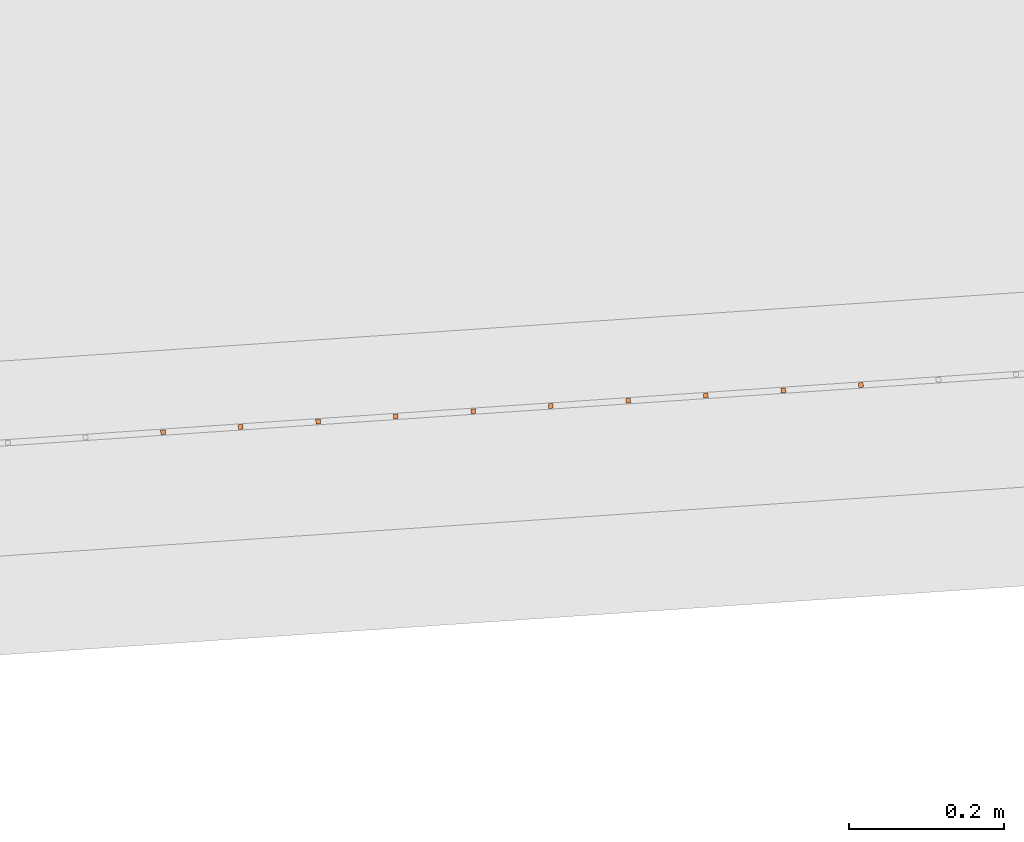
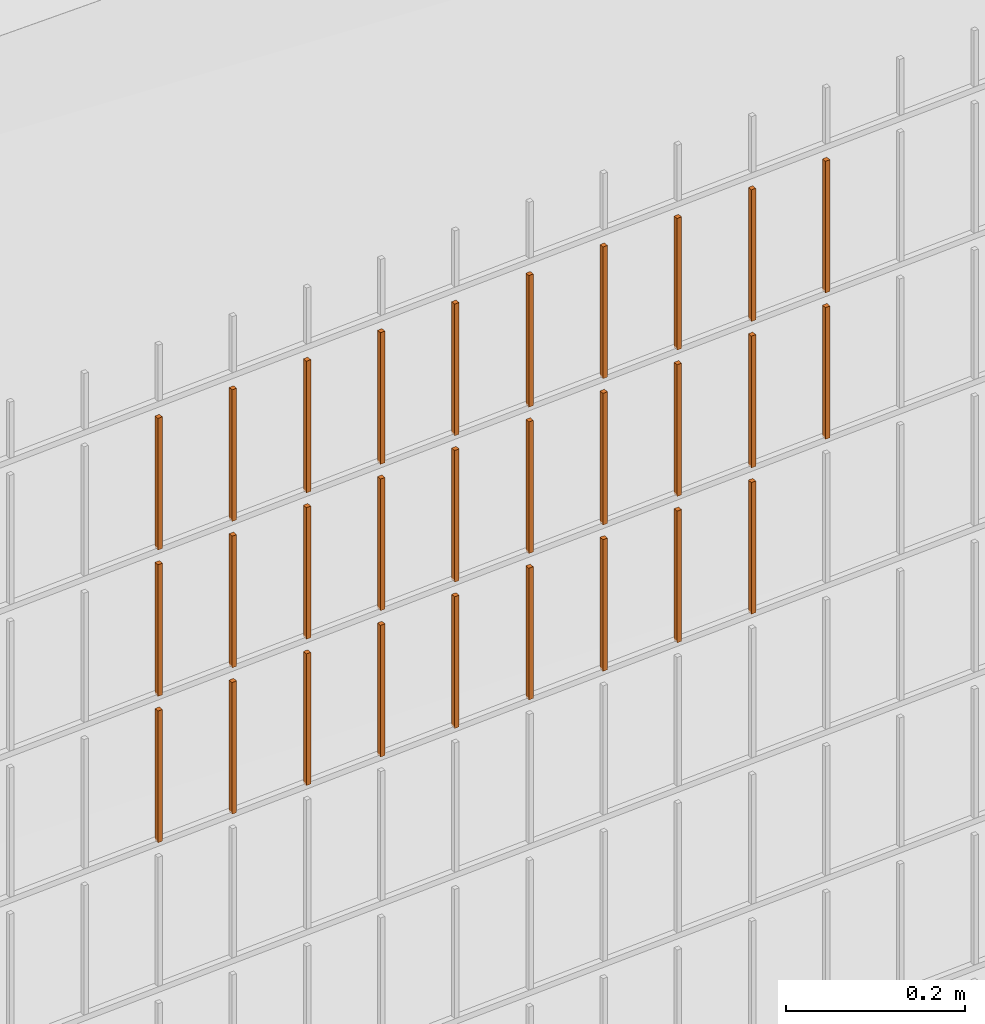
# One storey, part 342 of 1809: 29 proxies, 1 element without a shape of its own.
"""IFC2X3 building model written with IfcOpenShell, lengths in millimetres."""

from ifc_helpers import new_model, entity, si_unit, converted_unit, derived_unit, money_unit, direction, frame, origin_with_axes, place, context, subcontext, project, spatial, faceted_brep, source, transform, mapped, material, type_object, element, aggregate, save


model = new_model("IFC2X3")

# Units and contexts
model_context = context("Model", 3, precision=0.01, world=origin_with_axes(), true_north=direction((0.0, 1.0)))
body_context = subcontext(model_context, "Body", "Model", "MODEL_VIEW")
ifc_project = project(units=[si_unit("LENGTHUNIT", "METRE", prefix="MILLI"), si_unit("AREAUNIT", "SQUARE_METRE"), si_unit("VOLUMEUNIT", "CUBIC_METRE"), converted_unit("PLANEANGLEUNIT", "DEGREE", entity("IfcPlaneAngleMeasure", 0.0174532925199), si_unit("PLANEANGLEUNIT", "RADIAN"), dimensions=[0, 0, 0, 0, 0, 0, 0]), si_unit("SOLIDANGLEUNIT", "STERADIAN"), money_unit("EUR"), converted_unit("TIMEUNIT", "Year", entity("IfcTimeMeasure", 31556926.0), si_unit("TIMEUNIT", "SECOND"), dimensions=[0, 0, 1, 0, 0, 0, 0]), si_unit("MASSUNIT", "GRAM", prefix="KILO"), si_unit("THERMODYNAMICTEMPERATUREUNIT", "DEGREE_CELSIUS"), si_unit("LUMINOUSINTENSITYUNIT", "LUMEN"), si_unit("ENERGYUNIT", "JOULE", prefix="MEGA"), derived_unit("THERMALCONDUCTANCEUNIT", [(si_unit("POWERUNIT", "WATT"), 1), (si_unit("LENGTHUNIT", "METRE"), -1), (si_unit("THERMODYNAMICTEMPERATUREUNIT", "KELVIN"), -1)]), derived_unit("SPECIFICHEATCAPACITYUNIT", [(si_unit("ENERGYUNIT", "JOULE"), 1), (si_unit("MASSUNIT", "GRAM", prefix="KILO"), -1), (si_unit("THERMODYNAMICTEMPERATUREUNIT", "KELVIN"), -1)]), derived_unit("MASSDENSITYUNIT", [(si_unit("MASSUNIT", "GRAM", prefix="KILO"), 1), (si_unit("VOLUMEUNIT", "CUBIC_METRE"), -1)])], contexts=[model_context])

# Site, building, storey
site_placement = place(None, origin_with_axes())
site = spatial("IfcSite", under=ifc_project, at=site_placement, Name="Politse- ja Piirivalveameti ning Päästeameti ühishoone", CompositionType="ELEMENT")
building_placement = place(site_placement, origin_with_axes())
building = spatial("IfcBuilding", under=site, at=building_placement, Name="Politse- ja Piirivalveameti ning Päästeameti ühishoone", CompositionType="ELEMENT")
storey_placement = place(building_placement, origin_with_axes())
storey = spatial("IfcBuildingStorey", under=building, at=storey_placement, Name="Esimene korrus", CompositionType="ELEMENT", Elevation=0.0)

# Proxies
building_element_proxy_type_1 = type_object("IfcBuildingElementProxyType", Name="Railing Type", PredefinedType="NOTDEFINED")
proxy_1_placement = place(storey_placement, frame((89252.001212, -29183.4766571, 203.661247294), z_axis=(0.0, 0.0, 1.0), x_axis=(1.0, 0.0, 0.0)))
proxy_1 = element("IfcBuildingElementProxy", 1, at=proxy_1_placement, inside=storey, type_object=building_element_proxy_type_1, Name="PIIRDEAED")
ifc_material = material(Name="ET-03_Raud")
building_element_proxy_type_2 = type_object("IfcBuildingElementProxyType", Name="IfcBuildingElementProxy", PredefinedType="NOTDEFINED")
shared_shape_1 = source(origin_with_axes(), body_context, "Body", "Brep", [
    faceted_brep([(3.0, 3.0, -0.000752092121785), (-3.0, 3.0, -0.000752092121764), (-3.0, 3.0, 179.99926046), (3.0, 3.0, 179.99926046), (3.0, -3.0, 0.000752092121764), (-3.0, -3.0, 0.000752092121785), (-3.0, -3.0, 180.000764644), (3.0, -3.0, 180.000764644)], [[[0, 1, 2, 3]], [[0, 4, 5, 1]], [[1, 5, 6, 2]], [[3, 2, 6, 7]], [[4, 0, 3, 7]], [[5, 4, 7, 6]]]),
])
proxy_2_placement = place(proxy_1_placement, frame((-30257.7411612, -19341.5709885, 1819.63156448), z_axis=(0.0, 0.0, 1.0), x_axis=(1.0, 0.0, 0.0)))
proxy_2 = element("IfcBuildingElementProxy", 2, at=proxy_2_placement, type_object=building_element_proxy_type_2, material=ifc_material, Name="BALUSTER - 001", context=body_context, shape_type="MappedRepresentation", body=[
    mapped(shared_shape_1, transform((0.0, 0.0, 0.0), x_axis=(-0.0673926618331, 0.997726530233, 0.0), y_axis=(-0.997726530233, -0.0673926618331, 0.0), z_axis=(0.0, 0.0, 1.0))),
])
shared_shape_2 = source(origin_with_axes(), body_context, "Body", "Brep", [
    faceted_brep([(3.0, 3.0, -0.000752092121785), (-3.0, 3.0, -0.000752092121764), (-3.0, 3.0, 179.99926046), (3.0, 3.0, 179.99926046), (3.0, -3.0, 0.000752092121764), (-3.0, -3.0, 0.000752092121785), (-3.0, -3.0, 180.000764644), (3.0, -3.0, 180.000764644)], [[[0, 1, 2, 3]], [[0, 4, 5, 1]], [[1, 5, 6, 2]], [[3, 2, 6, 7]], [[4, 0, 3, 7]], [[5, 4, 7, 6]]]),
])
proxy_3_placement = place(proxy_1_placement, frame((-30257.7411612, -19341.5709885, 1619.63156448), z_axis=(0.0, 0.0, 1.0), x_axis=(1.0, 0.0, 0.0)))
proxy_3 = element("IfcBuildingElementProxy", 3, at=proxy_3_placement, type_object=building_element_proxy_type_2, material=ifc_material, Name="BALUSTER - 001", context=body_context, shape_type="MappedRepresentation", body=[
    mapped(shared_shape_2, transform((0.0, 0.0, 0.0), x_axis=(-0.0673926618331, 0.997726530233, 0.0), y_axis=(-0.997726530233, -0.0673926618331, 0.0), z_axis=(0.0, 0.0, 1.0))),
])
shared_shape_3 = source(origin_with_axes(), body_context, "Body", "Brep", [
    faceted_brep([(3.0, 3.0, -0.000752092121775), (-3.0, 3.0, -0.000752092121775), (-3.0, 3.0, 179.99926046), (3.0, 3.0, 179.99926046), (3.0, -3.0, 0.000752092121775), (-3.0, -3.0, 0.000752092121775), (-3.0, -3.0, 180.000764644), (3.0, -3.0, 180.000764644)], [[[0, 1, 2, 3]], [[0, 4, 5, 1]], [[1, 5, 6, 2]], [[3, 2, 6, 7]], [[4, 0, 3, 7]], [[5, 4, 7, 6]]]),
])
proxy_4_placement = place(proxy_1_placement, frame((-31055.9223854, -19395.4851179, 1419.43100658), z_axis=(0.0, 0.0, 1.0), x_axis=(1.0, 0.0, 0.0)))
proxy_4 = element("IfcBuildingElementProxy", 4, at=proxy_4_placement, type_object=building_element_proxy_type_2, material=ifc_material, Name="BALUSTER - 001", context=body_context, shape_type="MappedRepresentation", body=[
    mapped(shared_shape_3, transform((0.0, 0.0, 0.0), x_axis=(-0.0673926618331, 0.997726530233, 0.0), y_axis=(-0.997726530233, -0.0673926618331, 0.0), z_axis=(0.0, 0.0, 1.0))),
])
shared_shape_4 = source(origin_with_axes(), body_context, "Body", "Brep", [
    faceted_brep([(3.0, 3.0, -0.000752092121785), (-3.0, 3.0, -0.000752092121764), (-3.0, 3.0, 179.99926046), (3.0, 3.0, 179.99926046), (3.0, -3.0, 0.000752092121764), (-3.0, -3.0, 0.000752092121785), (-3.0, -3.0, 180.000764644), (3.0, -3.0, 180.000764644)], [[[0, 1, 2, 3]], [[0, 4, 5, 1]], [[1, 5, 6, 2]], [[3, 2, 6, 7]], [[4, 0, 3, 7]], [[5, 4, 7, 6]]]),
])
proxy_5_placement = place(proxy_1_placement, frame((-30956.1497324, -19388.7458517, 1619.45607631), z_axis=(0.0, 0.0, 1.0), x_axis=(1.0, 0.0, 0.0)))
proxy_5 = element("IfcBuildingElementProxy", 5, at=proxy_5_placement, type_object=building_element_proxy_type_2, material=ifc_material, Name="BALUSTER - 001", context=body_context, shape_type="MappedRepresentation", body=[
    mapped(shared_shape_4, transform((0.0, 0.0, 0.0), x_axis=(-0.0673926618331, 0.997726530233, 0.0), y_axis=(-0.997726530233, -0.0673926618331, 0.0), z_axis=(0.0, 0.0, 1.0))),
])
shared_shape_5 = source(origin_with_axes(), body_context, "Body", "Brep", [
    faceted_brep([(3.0, 3.0, -0.000752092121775), (-3.0, 3.0, -0.000752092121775), (-3.0, 3.0, 179.99926046), (3.0, 3.0, 179.99926046), (3.0, -3.0, 0.000752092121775), (-3.0, -3.0, 0.000752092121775), (-3.0, -3.0, 180.000764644), (3.0, -3.0, 180.000764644)], [[[0, 1, 2, 3]], [[0, 4, 5, 1]], [[1, 5, 6, 2]], [[3, 2, 6, 7]], [[4, 0, 3, 7]], [[5, 4, 7, 6]]]),
])
proxy_6_placement = place(proxy_1_placement, frame((-31055.9223854, -19395.4851179, 1819.43100658), z_axis=(0.0, 0.0, 1.0), x_axis=(1.0, 0.0, 0.0)))
proxy_6 = element("IfcBuildingElementProxy", 6, at=proxy_6_placement, type_object=building_element_proxy_type_2, material=ifc_material, Name="BALUSTER - 001", context=body_context, shape_type="MappedRepresentation", body=[
    mapped(shared_shape_5, transform((0.0, 0.0, 0.0), x_axis=(-0.0673926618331, 0.997726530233, 0.0), y_axis=(-0.997726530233, -0.0673926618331, 0.0), z_axis=(0.0, 0.0, 1.0))),
])
shared_shape_6 = source(origin_with_axes(), body_context, "Body", "Brep", [
    faceted_brep([(3.0, 3.0, -0.000752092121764), (-3.0, 3.0, -0.000752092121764), (-3.0, 3.0, 179.99926046), (3.0, 3.0, 179.99926046), (3.0, -3.0, 0.000752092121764), (-3.0, -3.0, 0.000752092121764), (-3.0, -3.0, 180.000764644), (3.0, -3.0, 180.000764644)], [[[0, 1, 2, 3]], [[0, 4, 5, 1]], [[1, 5, 6, 2]], [[3, 2, 6, 7]], [[4, 0, 3, 7]], [[5, 4, 7, 6]]]),
])
proxy_7_placement = place(proxy_1_placement, frame((-30856.3770794, -19382.0065856, 1419.48114605), z_axis=(0.0, 0.0, 1.0), x_axis=(1.0, 0.0, 0.0)))
proxy_7 = element("IfcBuildingElementProxy", 7, at=proxy_7_placement, type_object=building_element_proxy_type_2, material=ifc_material, Name="BALUSTER - 001", context=body_context, shape_type="MappedRepresentation", body=[
    mapped(shared_shape_6, transform((0.0, 0.0, 0.0), x_axis=(-0.0673926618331, 0.997726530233, 0.0), y_axis=(-0.997726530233, -0.0673926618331, 0.0), z_axis=(0.0, 0.0, 1.0))),
])
proxy_8_placement = place(proxy_1_placement, frame((-30856.3770794, -19382.0065856, 1619.48114605), z_axis=(0.0, 0.0, 1.0), x_axis=(1.0, 0.0, 0.0)))
proxy_8 = element("IfcBuildingElementProxy", 8, at=proxy_8_placement, type_object=building_element_proxy_type_2, material=ifc_material, Name="BALUSTER - 001", context=body_context, shape_type="MappedRepresentation", body=[
    mapped(shared_shape_6, transform((0.0, 0.0, 0.0), x_axis=(-0.0673926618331, 0.997726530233, 0.0), y_axis=(-0.997726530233, -0.0673926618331, 0.0), z_axis=(0.0, 0.0, 1.0))),
])
shared_shape_7 = source(origin_with_axes(), body_context, "Body", "Brep", [
    faceted_brep([(3.0, 3.0, -0.000752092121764), (-3.0, 3.0, -0.000752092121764), (-3.0, 3.0, 179.99926046), (3.0, 3.0, 179.99926046), (3.0, -3.0, 0.000752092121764), (-3.0, -3.0, 0.000752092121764), (-3.0, -3.0, 180.000764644), (3.0, -3.0, 180.000764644)], [[[0, 1, 2, 3]], [[0, 4, 5, 1]], [[1, 5, 6, 2]], [[3, 2, 6, 7]], [[4, 0, 3, 7]], [[5, 4, 7, 6]]]),
])
proxy_9_placement = place(proxy_1_placement, frame((-30856.3770794, -19382.0065856, 1819.48114605), z_axis=(0.0, 0.0, 1.0), x_axis=(1.0, 0.0, 0.0)))
proxy_9 = element("IfcBuildingElementProxy", 9, at=proxy_9_placement, type_object=building_element_proxy_type_2, material=ifc_material, Name="BALUSTER - 001", context=body_context, shape_type="MappedRepresentation", body=[
    mapped(shared_shape_7, transform((0.0, 0.0, 0.0), x_axis=(-0.0673926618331, 0.997726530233, 0.0), y_axis=(-0.997726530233, -0.0673926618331, 0.0), z_axis=(0.0, 0.0, 1.0))),
])
shared_shape_8 = source(origin_with_axes(), body_context, "Body", "Brep", [
    faceted_brep([(3.0, 3.0, -0.000752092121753), (-3.0, 3.0, -0.000752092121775), (-3.0, 3.0, 179.99926046), (3.0, 3.0, 179.99926046), (3.0, -3.0, 0.000752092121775), (-3.0, -3.0, 0.000752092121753), (-3.0, -3.0, 180.000764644), (3.0, -3.0, 180.000764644)], [[[0, 1, 2, 3]], [[0, 4, 5, 1]], [[1, 5, 6, 2]], [[3, 2, 6, 7]], [[4, 0, 3, 7]], [[5, 4, 7, 6]]]),
])
proxy_10_placement = place(proxy_1_placement, frame((-30656.8317733, -19368.5280532, 1419.53128553), z_axis=(0.0, 0.0, 1.0), x_axis=(1.0, 0.0, 0.0)))
proxy_10 = element("IfcBuildingElementProxy", 10, at=proxy_10_placement, type_object=building_element_proxy_type_2, material=ifc_material, Name="BALUSTER - 001", context=body_context, shape_type="MappedRepresentation", body=[
    mapped(shared_shape_8, transform((0.0, 0.0, 0.0), x_axis=(-0.0673926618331, 0.997726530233, 0.0), y_axis=(-0.997726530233, -0.0673926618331, 0.0), z_axis=(0.0, 0.0, 1.0))),
])
proxy_11_placement = place(proxy_1_placement, frame((-30756.6044264, -19375.2673194, 1419.50621579), z_axis=(0.0, 0.0, 1.0), x_axis=(1.0, 0.0, 0.0)))
proxy_11 = element("IfcBuildingElementProxy", 11, at=proxy_11_placement, type_object=building_element_proxy_type_2, material=ifc_material, Name="BALUSTER - 001", context=body_context, shape_type="MappedRepresentation", body=[
    mapped(shared_shape_8, transform((0.0, 0.0, 0.0), x_axis=(-0.0673926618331, 0.997726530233, 0.0), y_axis=(-0.997726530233, -0.0673926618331, 0.0), z_axis=(0.0, 0.0, 1.0))),
])
shared_shape_9 = source(origin_with_axes(), body_context, "Body", "Brep", [
    faceted_brep([(3.0, 3.0, -0.000752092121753), (-3.0, 3.0, -0.000752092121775), (-3.0, 3.0, 179.99926046), (3.0, 3.0, 179.99926046), (3.0, -3.0, 0.000752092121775), (-3.0, -3.0, 0.000752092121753), (-3.0, -3.0, 180.000764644), (3.0, -3.0, 180.000764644)], [[[0, 1, 2, 3]], [[0, 4, 5, 1]], [[1, 5, 6, 2]], [[3, 2, 6, 7]], [[4, 0, 3, 7]], [[5, 4, 7, 6]]]),
])
proxy_12_placement = place(proxy_1_placement, frame((-30656.8317733, -19368.5280532, 1819.53128553), z_axis=(0.0, 0.0, 1.0), x_axis=(1.0, 0.0, 0.0)))
proxy_12 = element("IfcBuildingElementProxy", 12, at=proxy_12_placement, type_object=building_element_proxy_type_2, material=ifc_material, Name="BALUSTER - 001", context=body_context, shape_type="MappedRepresentation", body=[
    mapped(shared_shape_9, transform((0.0, 0.0, 0.0), x_axis=(-0.0673926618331, 0.997726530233, 0.0), y_axis=(-0.997726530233, -0.0673926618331, 0.0), z_axis=(0.0, 0.0, 1.0))),
])
proxy_13_placement = place(proxy_1_placement, frame((-30756.6044264, -19375.2673194, 1819.50621579), z_axis=(0.0, 0.0, 1.0), x_axis=(1.0, 0.0, 0.0)))
proxy_13 = element("IfcBuildingElementProxy", 13, at=proxy_13_placement, type_object=building_element_proxy_type_2, material=ifc_material, Name="BALUSTER - 001", context=body_context, shape_type="MappedRepresentation", body=[
    mapped(shared_shape_9, transform((0.0, 0.0, 0.0), x_axis=(-0.0673926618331, 0.997726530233, 0.0), y_axis=(-0.997726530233, -0.0673926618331, 0.0), z_axis=(0.0, 0.0, 1.0))),
])
shared_shape_10 = source(origin_with_axes(), body_context, "Body", "Brep", [
    faceted_brep([(3.0, 3.0, -0.000752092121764), (-3.0, 3.0, -0.000752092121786), (-3.0, 3.0, 179.99926046), (3.0, 3.0, 179.99926046), (3.0, -3.0, 0.000752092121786), (-3.0, -3.0, 0.000752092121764), (-3.0, -3.0, 180.000764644), (3.0, -3.0, 180.000764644)], [[[0, 1, 2, 3]], [[0, 4, 5, 1]], [[1, 5, 6, 2]], [[3, 2, 6, 7]], [[4, 0, 3, 7]], [[5, 4, 7, 6]]]),
])
proxy_14_placement = place(proxy_1_placement, frame((-31155.6950385, -19402.2243841, 1819.40593684), z_axis=(0.0, 0.0, 1.0), x_axis=(1.0, 0.0, 0.0)))
proxy_14 = element("IfcBuildingElementProxy", 14, at=proxy_14_placement, type_object=building_element_proxy_type_2, material=ifc_material, Name="BALUSTER - 001", context=body_context, shape_type="MappedRepresentation", body=[
    mapped(shared_shape_10, transform((0.0, 0.0, 0.0), x_axis=(-0.0673926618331, 0.997726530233, 0.0), y_axis=(-0.997726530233, -0.0673926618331, 0.0), z_axis=(0.0, 0.0, 1.0))),
])
shared_shape_11 = source(origin_with_axes(), body_context, "Body", "Brep", [
    faceted_brep([(3.0, 3.0, -0.000752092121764), (-3.0, 3.0, -0.000752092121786), (-3.0, 3.0, 179.99926046), (3.0, 3.0, 179.99926046), (3.0, -3.0, 0.000752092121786), (-3.0, -3.0, 0.000752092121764), (-3.0, -3.0, 180.000764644), (3.0, -3.0, 180.000764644)], [[[0, 1, 2, 3]], [[0, 4, 5, 1]], [[1, 5, 6, 2]], [[3, 2, 6, 7]], [[4, 0, 3, 7]], [[5, 4, 7, 6]]]),
])
proxy_15_placement = place(proxy_1_placement, frame((-31155.6950385, -19402.2243841, 1419.40593684), z_axis=(0.0, 0.0, 1.0), x_axis=(1.0, 0.0, 0.0)))
proxy_15 = element("IfcBuildingElementProxy", 15, at=proxy_15_placement, type_object=building_element_proxy_type_2, material=ifc_material, Name="BALUSTER - 001", context=body_context, shape_type="MappedRepresentation", body=[
    mapped(shared_shape_11, transform((0.0, 0.0, 0.0), x_axis=(-0.0673926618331, 0.997726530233, 0.0), y_axis=(-0.997726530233, -0.0673926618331, 0.0), z_axis=(0.0, 0.0, 1.0))),
])
proxy_16_placement = place(proxy_1_placement, frame((-31155.6950385, -19402.2243841, 1619.40593684), z_axis=(0.0, 0.0, 1.0), x_axis=(1.0, 0.0, 0.0)))
proxy_16 = element("IfcBuildingElementProxy", 16, at=proxy_16_placement, type_object=building_element_proxy_type_2, material=ifc_material, Name="BALUSTER - 001", context=body_context, shape_type="MappedRepresentation", body=[
    mapped(shared_shape_11, transform((0.0, 0.0, 0.0), x_axis=(-0.0673926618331, 0.997726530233, 0.0), y_axis=(-0.997726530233, -0.0673926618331, 0.0), z_axis=(0.0, 0.0, 1.0))),
])
shared_shape_12 = source(origin_with_axes(), body_context, "Body", "Brep", [
    faceted_brep([(3.0, 3.0, -0.000752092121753), (-3.0, 3.0, -0.000752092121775), (-3.0, 3.0, 179.99926046), (3.0, 3.0, 179.99926046), (3.0, -3.0, 0.000752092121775), (-3.0, -3.0, 0.000752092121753), (-3.0, -3.0, 180.000764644), (3.0, -3.0, 180.000764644)], [[[0, 1, 2, 3]], [[0, 4, 5, 1]], [[1, 5, 6, 2]], [[3, 2, 6, 7]], [[4, 0, 3, 7]], [[5, 4, 7, 6]]]),
])
proxy_17_placement = place(proxy_1_placement, frame((-30756.6044264, -19375.2673194, 1619.50621579), z_axis=(0.0, 0.0, 1.0), x_axis=(1.0, 0.0, 0.0)))
proxy_17 = element("IfcBuildingElementProxy", 17, at=proxy_17_placement, type_object=building_element_proxy_type_2, material=ifc_material, Name="BALUSTER - 001", context=body_context, shape_type="MappedRepresentation", body=[
    mapped(shared_shape_12, transform((0.0, 0.0, 0.0), x_axis=(-0.0673926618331, 0.997726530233, 0.0), y_axis=(-0.997726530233, -0.0673926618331, 0.0), z_axis=(0.0, 0.0, 1.0))),
])
shared_shape_13 = source(origin_with_axes(), body_context, "Body", "Brep", [
    faceted_brep([(3.0, 3.0, -0.000752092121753), (-3.0, 3.0, -0.000752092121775), (-3.0, 3.0, 179.99926046), (3.0, 3.0, 179.99926046), (3.0, -3.0, 0.000752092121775), (-3.0, -3.0, 0.000752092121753), (-3.0, -3.0, 180.000764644), (3.0, -3.0, 180.000764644)], [[[0, 1, 2, 3]], [[0, 4, 5, 1]], [[1, 5, 6, 2]], [[3, 2, 6, 7]], [[4, 0, 3, 7]], [[5, 4, 7, 6]]]),
])
proxy_18_placement = place(proxy_1_placement, frame((-30656.8317733, -19368.5280532, 1619.53128553), z_axis=(0.0, 0.0, 1.0), x_axis=(1.0, 0.0, 0.0)))
proxy_18 = element("IfcBuildingElementProxy", 18, at=proxy_18_placement, type_object=building_element_proxy_type_2, material=ifc_material, Name="BALUSTER - 001", context=body_context, shape_type="MappedRepresentation", body=[
    mapped(shared_shape_13, transform((0.0, 0.0, 0.0), x_axis=(-0.0673926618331, 0.997726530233, 0.0), y_axis=(-0.997726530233, -0.0673926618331, 0.0), z_axis=(0.0, 0.0, 1.0))),
])
proxy_19_placement = place(proxy_1_placement, frame((-30557.0591203, -19361.788787, 1819.55635526), z_axis=(0.0, 0.0, 1.0), x_axis=(1.0, 0.0, 0.0)))
proxy_19 = element("IfcBuildingElementProxy", 19, at=proxy_19_placement, type_object=building_element_proxy_type_2, material=ifc_material, Name="BALUSTER - 001", context=body_context, shape_type="MappedRepresentation", body=[
    mapped(shared_shape_13, transform((0.0, 0.0, 0.0), x_axis=(-0.0673926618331, 0.997726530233, 0.0), y_axis=(-0.997726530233, -0.0673926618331, 0.0), z_axis=(0.0, 0.0, 1.0))),
])
shared_shape_14 = source(origin_with_axes(), body_context, "Body", "Brep", [
    faceted_brep([(3.0, 3.0, -0.000752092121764), (-3.0, 3.0, -0.000752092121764), (-3.0, 3.0, 179.99926046), (3.0, 3.0, 179.99926046), (3.0, -3.0, 0.000752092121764), (-3.0, -3.0, 0.000752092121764), (-3.0, -3.0, 180.000764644), (3.0, -3.0, 180.000764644)], [[[0, 1, 2, 3]], [[0, 4, 5, 1]], [[1, 5, 6, 2]], [[3, 2, 6, 7]], [[4, 0, 3, 7]], [[5, 4, 7, 6]]]),
])
proxy_20_placement = place(proxy_1_placement, frame((-30357.5138143, -19348.3102546, 1819.60649474), z_axis=(0.0, 0.0, 1.0), x_axis=(1.0, 0.0, 0.0)))
proxy_20 = element("IfcBuildingElementProxy", 20, at=proxy_20_placement, type_object=building_element_proxy_type_2, material=ifc_material, Name="BALUSTER - 001", context=body_context, shape_type="MappedRepresentation", body=[
    mapped(shared_shape_14, transform((0.0, 0.0, 0.0), x_axis=(-0.0673926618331, 0.997726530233, 0.0), y_axis=(-0.997726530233, -0.0673926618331, 0.0), z_axis=(0.0, 0.0, 1.0))),
])
shared_shape_15 = source(origin_with_axes(), body_context, "Body", "Brep", [
    faceted_brep([(3.0, 3.0, -0.000752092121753), (-3.0, 3.0, -0.000752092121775), (-3.0, 3.0, 179.99926046), (3.0, 3.0, 179.99926046), (3.0, -3.0, 0.000752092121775), (-3.0, -3.0, 0.000752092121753), (-3.0, -3.0, 180.000764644), (3.0, -3.0, 180.000764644)], [[[0, 1, 2, 3]], [[0, 4, 5, 1]], [[1, 5, 6, 2]], [[3, 2, 6, 7]], [[4, 0, 3, 7]], [[5, 4, 7, 6]]]),
])
proxy_21_placement = place(proxy_1_placement, frame((-30457.2864673, -19355.0495208, 1819.581425), z_axis=(0.0, 0.0, 1.0), x_axis=(1.0, 0.0, 0.0)))
proxy_21 = element("IfcBuildingElementProxy", 21, at=proxy_21_placement, type_object=building_element_proxy_type_2, material=ifc_material, Name="BALUSTER - 001", context=body_context, shape_type="MappedRepresentation", body=[
    mapped(shared_shape_15, transform((0.0, 0.0, 0.0), x_axis=(-0.0673926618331, 0.997726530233, 0.0), y_axis=(-0.997726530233, -0.0673926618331, 0.0), z_axis=(0.0, 0.0, 1.0))),
])
shared_shape_16 = source(origin_with_axes(), body_context, "Body", "Brep", [
    faceted_brep([(3.0, 3.0, -0.000752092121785), (-3.0, 3.0, -0.000752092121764), (-3.0, 3.0, 179.99926046), (3.0, 3.0, 179.99926046), (3.0, -3.0, 0.000752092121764), (-3.0, -3.0, 0.000752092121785), (-3.0, -3.0, 180.000764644), (3.0, -3.0, 180.000764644)], [[[0, 1, 2, 3]], [[0, 4, 5, 1]], [[1, 5, 6, 2]], [[3, 2, 6, 7]], [[4, 0, 3, 7]], [[5, 4, 7, 6]]]),
])
proxy_22_placement = place(proxy_1_placement, frame((-30956.1497324, -19388.7458517, 1819.45607631), z_axis=(0.0, 0.0, 1.0), x_axis=(1.0, 0.0, 0.0)))
proxy_22 = element("IfcBuildingElementProxy", 22, at=proxy_22_placement, type_object=building_element_proxy_type_2, material=ifc_material, Name="BALUSTER - 001", context=body_context, shape_type="MappedRepresentation", body=[
    mapped(shared_shape_16, transform((0.0, 0.0, 0.0), x_axis=(-0.0673926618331, 0.997726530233, 0.0), y_axis=(-0.997726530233, -0.0673926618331, 0.0), z_axis=(0.0, 0.0, 1.0))),
])
shared_shape_17 = source(origin_with_axes(), body_context, "Body", "Brep", [
    faceted_brep([(3.0, 3.0, -0.000752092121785), (-3.0, 3.0, -0.000752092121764), (-3.0, 3.0, 179.99926046), (3.0, 3.0, 179.99926046), (3.0, -3.0, 0.000752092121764), (-3.0, -3.0, 0.000752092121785), (-3.0, -3.0, 180.000764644), (3.0, -3.0, 180.000764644)], [[[0, 1, 2, 3]], [[0, 4, 5, 1]], [[1, 5, 6, 2]], [[3, 2, 6, 7]], [[4, 0, 3, 7]], [[5, 4, 7, 6]]]),
])
proxy_23_placement = place(proxy_1_placement, frame((-30956.1497324, -19388.7458517, 1419.45607631), z_axis=(0.0, 0.0, 1.0), x_axis=(1.0, 0.0, 0.0)))
proxy_23 = element("IfcBuildingElementProxy", 23, at=proxy_23_placement, type_object=building_element_proxy_type_2, material=ifc_material, Name="BALUSTER - 001", context=body_context, shape_type="MappedRepresentation", body=[
    mapped(shared_shape_17, transform((0.0, 0.0, 0.0), x_axis=(-0.0673926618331, 0.997726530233, 0.0), y_axis=(-0.997726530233, -0.0673926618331, 0.0), z_axis=(0.0, 0.0, 1.0))),
])
shared_shape_18 = source(origin_with_axes(), body_context, "Body", "Brep", [
    faceted_brep([(3.0, 3.0, -0.000752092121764), (-3.0, 3.0, -0.000752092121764), (-3.0, 3.0, 179.99926046), (3.0, 3.0, 179.99926046), (3.0, -3.0, 0.000752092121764), (-3.0, -3.0, 0.000752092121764), (-3.0, -3.0, 180.000764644), (3.0, -3.0, 180.000764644)], [[[0, 1, 2, 3]], [[0, 4, 5, 1]], [[1, 5, 6, 2]], [[3, 2, 6, 7]], [[4, 0, 3, 7]], [[5, 4, 7, 6]]]),
])
proxy_24_placement = place(proxy_1_placement, frame((-30357.5138143, -19348.3102546, 1419.60649474), z_axis=(0.0, 0.0, 1.0), x_axis=(1.0, 0.0, 0.0)))
proxy_24 = element("IfcBuildingElementProxy", 24, at=proxy_24_placement, type_object=building_element_proxy_type_2, material=ifc_material, Name="BALUSTER - 001", context=body_context, shape_type="MappedRepresentation", body=[
    mapped(shared_shape_18, transform((0.0, 0.0, 0.0), x_axis=(-0.0673926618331, 0.997726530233, 0.0), y_axis=(-0.997726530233, -0.0673926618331, 0.0), z_axis=(0.0, 0.0, 1.0))),
])
shared_shape_19 = source(origin_with_axes(), body_context, "Body", "Brep", [
    faceted_brep([(3.0, 3.0, -0.000752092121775), (-3.0, 3.0, -0.000752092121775), (-3.0, 3.0, 179.99926046), (3.0, 3.0, 179.99926046), (3.0, -3.0, 0.000752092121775), (-3.0, -3.0, 0.000752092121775), (-3.0, -3.0, 180.000764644), (3.0, -3.0, 180.000764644)], [[[0, 1, 2, 3]], [[0, 4, 5, 1]], [[1, 5, 6, 2]], [[3, 2, 6, 7]], [[4, 0, 3, 7]], [[5, 4, 7, 6]]]),
])
proxy_25_placement = place(proxy_1_placement, frame((-31055.9223854, -19395.4851179, 1619.43100658), z_axis=(0.0, 0.0, 1.0), x_axis=(1.0, 0.0, 0.0)))
proxy_25 = element("IfcBuildingElementProxy", 25, at=proxy_25_placement, type_object=building_element_proxy_type_2, material=ifc_material, Name="BALUSTER - 001", context=body_context, shape_type="MappedRepresentation", body=[
    mapped(shared_shape_19, transform((0.0, 0.0, 0.0), x_axis=(-0.0673926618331, 0.997726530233, 0.0), y_axis=(-0.997726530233, -0.0673926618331, 0.0), z_axis=(0.0, 0.0, 1.0))),
])
shared_shape_20 = source(origin_with_axes(), body_context, "Body", "Brep", [
    faceted_brep([(3.0, 3.0, -0.000752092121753), (-3.0, 3.0, -0.000752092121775), (-3.0, 3.0, 179.99926046), (3.0, 3.0, 179.99926046), (3.0, -3.0, 0.000752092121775), (-3.0, -3.0, 0.000752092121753), (-3.0, -3.0, 180.000764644), (3.0, -3.0, 180.000764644)], [[[0, 1, 2, 3]], [[0, 4, 5, 1]], [[1, 5, 6, 2]], [[3, 2, 6, 7]], [[4, 0, 3, 7]], [[5, 4, 7, 6]]]),
])
proxy_26_placement = place(proxy_1_placement, frame((-30457.2864673, -19355.0495208, 1419.581425), z_axis=(0.0, 0.0, 1.0), x_axis=(1.0, 0.0, 0.0)))
proxy_26 = element("IfcBuildingElementProxy", 26, at=proxy_26_placement, type_object=building_element_proxy_type_2, material=ifc_material, Name="BALUSTER - 001", context=body_context, shape_type="MappedRepresentation", body=[
    mapped(shared_shape_20, transform((0.0, 0.0, 0.0), x_axis=(-0.0673926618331, 0.997726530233, 0.0), y_axis=(-0.997726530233, -0.0673926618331, 0.0), z_axis=(0.0, 0.0, 1.0))),
])
proxy_27_placement = place(proxy_1_placement, frame((-30457.2864673, -19355.0495208, 1619.581425), z_axis=(0.0, 0.0, 1.0), x_axis=(1.0, 0.0, 0.0)))
proxy_27 = element("IfcBuildingElementProxy", 27, at=proxy_27_placement, type_object=building_element_proxy_type_2, material=ifc_material, Name="BALUSTER - 001", context=body_context, shape_type="MappedRepresentation", body=[
    mapped(shared_shape_20, transform((0.0, 0.0, 0.0), x_axis=(-0.0673926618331, 0.997726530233, 0.0), y_axis=(-0.997726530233, -0.0673926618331, 0.0), z_axis=(0.0, 0.0, 1.0))),
])
shared_shape_21 = source(origin_with_axes(), body_context, "Body", "Brep", [
    faceted_brep([(3.0, 3.0, -0.000752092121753), (-3.0, 3.0, -0.000752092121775), (-3.0, 3.0, 179.99926046), (3.0, 3.0, 179.99926046), (3.0, -3.0, 0.000752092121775), (-3.0, -3.0, 0.000752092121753), (-3.0, -3.0, 180.000764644), (3.0, -3.0, 180.000764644)], [[[0, 1, 2, 3]], [[0, 4, 5, 1]], [[1, 5, 6, 2]], [[3, 2, 6, 7]], [[4, 0, 3, 7]], [[5, 4, 7, 6]]]),
])
proxy_28_placement = place(proxy_1_placement, frame((-30557.0591203, -19361.788787, 1419.55635526), z_axis=(0.0, 0.0, 1.0), x_axis=(1.0, 0.0, 0.0)))
proxy_28 = element("IfcBuildingElementProxy", 28, at=proxy_28_placement, type_object=building_element_proxy_type_2, material=ifc_material, Name="BALUSTER - 001", context=body_context, shape_type="MappedRepresentation", body=[
    mapped(shared_shape_21, transform((0.0, 0.0, 0.0), x_axis=(-0.0673926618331, 0.997726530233, 0.0), y_axis=(-0.997726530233, -0.0673926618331, 0.0), z_axis=(0.0, 0.0, 1.0))),
])
proxy_29_placement = place(proxy_1_placement, frame((-30557.0591203, -19361.788787, 1619.55635526), z_axis=(0.0, 0.0, 1.0), x_axis=(1.0, 0.0, 0.0)))
proxy_29 = element("IfcBuildingElementProxy", 29, at=proxy_29_placement, type_object=building_element_proxy_type_2, material=ifc_material, Name="BALUSTER - 001", context=body_context, shape_type="MappedRepresentation", body=[
    mapped(shared_shape_21, transform((0.0, 0.0, 0.0), x_axis=(-0.0673926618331, 0.997726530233, 0.0), y_axis=(-0.997726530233, -0.0673926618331, 0.0), z_axis=(0.0, 0.0, 1.0))),
])
shared_shape_22 = source(origin_with_axes(), body_context, "Body", "Brep", [
    faceted_brep([(3.0, 3.0, -0.000752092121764), (-3.0, 3.0, -0.000752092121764), (-3.0, 3.0, 179.99926046), (3.0, 3.0, 179.99926046), (3.0, -3.0, 0.000752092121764), (-3.0, -3.0, 0.000752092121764), (-3.0, -3.0, 180.000764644), (3.0, -3.0, 180.000764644)], [[[0, 1, 2, 3]], [[0, 4, 5, 1]], [[1, 5, 6, 2]], [[3, 2, 6, 7]], [[4, 0, 3, 7]], [[5, 4, 7, 6]]]),
])
proxy_30_placement = place(proxy_1_placement, frame((-30357.5138143, -19348.3102546, 1619.60649474), z_axis=(0.0, 0.0, 1.0), x_axis=(1.0, 0.0, 0.0)))
proxy_30 = element("IfcBuildingElementProxy", 30, at=proxy_30_placement, type_object=building_element_proxy_type_2, material=ifc_material, Name="BALUSTER - 001", context=body_context, shape_type="MappedRepresentation", body=[
    mapped(shared_shape_22, transform((0.0, 0.0, 0.0), x_axis=(-0.0673926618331, 0.997726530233, 0.0), y_axis=(-0.997726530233, -0.0673926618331, 0.0), z_axis=(0.0, 0.0, 1.0))),
])
aggregate(proxy_1, [proxy_24, proxy_26, proxy_28, proxy_10, proxy_11, proxy_7, proxy_23, proxy_4, proxy_15, proxy_3, proxy_30, proxy_27, proxy_29, proxy_18, proxy_17, proxy_8, proxy_5, proxy_25, proxy_16, proxy_2, proxy_20, proxy_21, proxy_19, proxy_12, proxy_13, proxy_9, proxy_22, proxy_6, proxy_14])

save(model, "model.ifc")
